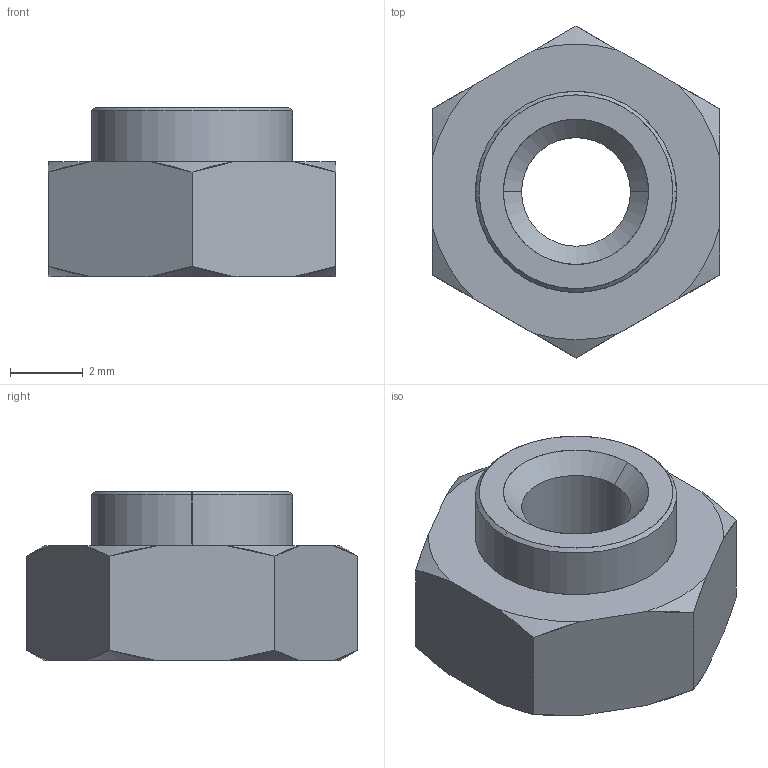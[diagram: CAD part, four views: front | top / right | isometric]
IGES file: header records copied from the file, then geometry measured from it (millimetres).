
Start section: SolidWorks IGES file using analytic representation for surfaces
Global section: file name: C:\Users\liam_\OneDrive\Desktop\Work\Mat Davis Pending 20181125\automotion\P SERIES\P0827.ZP_v2\P0827.ZP_v2_20181231_IGES\P0827.030-20G-ZP.igs; native system: SolidWorks 2017; preprocessor: SolidWorks 2017; author: liam_; date: 181231.110239; units: millimetre
Bounding box: 7.92 x 9.15 x 4.67 mm (x, y, z)
Surface area: 242.6 mm2 (no closed solid volume)
Topology: 0 solids, 0 shells, 31 faces, 336 edges, 336 vertices
Faces by surface type: revolution 22, bspline 9
